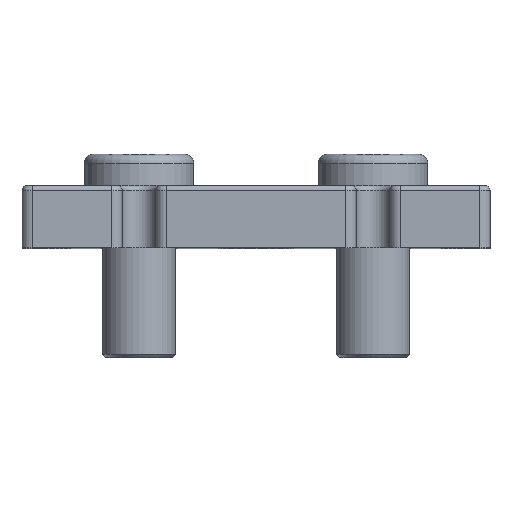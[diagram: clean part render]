
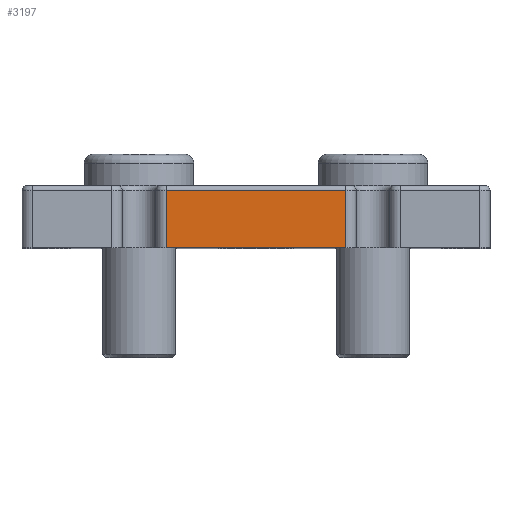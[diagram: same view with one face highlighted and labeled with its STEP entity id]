
A CAD part, top view. The second image highlights one B-rep face of the part: STEP entity #3197.
In plain terms, the highlighted planar face has unit normal (0, 0, 1).
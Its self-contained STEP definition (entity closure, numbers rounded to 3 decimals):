
#67=PLANE('',#3555);
#271=FACE_OUTER_BOUND('',#470,.T.);
#470=EDGE_LOOP('',(#2500,#2501,#2502,#2503));
#702=LINE('',#5696,#963);
#708=LINE('',#5724,#969);
#709=LINE('',#5727,#970);
#710=LINE('',#5728,#971);
#963=VECTOR('',#4283,1000.);
#969=VECTOR('',#4305,1000.);
#970=VECTOR('',#4308,1000.);
#971=VECTOR('',#4309,1000.);
#1475=VERTEX_POINT('',#5687);
#1478=VERTEX_POINT('',#5695);
#1483=VERTEX_POINT('',#5722);
#1484=VERTEX_POINT('',#5726);
#1866=EDGE_CURVE('',#1478,#1475,#702,.T.);
#1877=EDGE_CURVE('',#1483,#1478,#708,.T.);
#1878=EDGE_CURVE('',#1484,#1483,#709,.T.);
#1879=EDGE_CURVE('',#1475,#1484,#710,.T.);
#2500=ORIENTED_EDGE('',*,*,#1878,.T.);
#2501=ORIENTED_EDGE('',*,*,#1877,.T.);
#2502=ORIENTED_EDGE('',*,*,#1866,.T.);
#2503=ORIENTED_EDGE('',*,*,#1879,.T.);
#3197=ADVANCED_FACE('',(#271),#67,.F.);
#3555=AXIS2_PLACEMENT_3D('',#5725,#4306,#4307);
#4283=DIRECTION('',(-1.,0.,0.));
#4305=DIRECTION('',(0.,1.,0.));
#4306=DIRECTION('center_axis',(0.,0.,-1.));
#4307=DIRECTION('ref_axis',(-1.,0.,0.));
#4308=DIRECTION('',(1.,0.,0.));
#4309=DIRECTION('',(0.,-1.,0.));
#5687=CARTESIAN_POINT('',(-16.763,12.792,45.));
#5695=CARTESIAN_POINT('',(17.737,12.792,45.));
#5696=CARTESIAN_POINT('',(-18.763,12.792,45.));
#5722=CARTESIAN_POINT('',(17.737,1.792,45.));
#5724=CARTESIAN_POINT('',(17.737,13.792,45.));
#5725=CARTESIAN_POINT('Origin',(19.737,13.792,45.));
#5726=CARTESIAN_POINT('',(-16.763,1.792,45.));
#5727=CARTESIAN_POINT('',(19.737,1.792,45.));
#5728=CARTESIAN_POINT('',(-16.763,13.792,45.));
